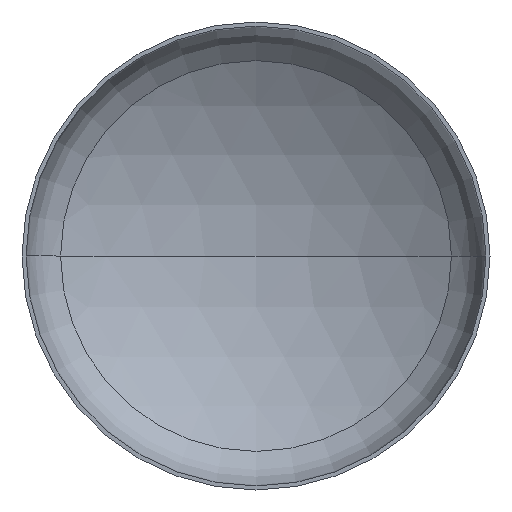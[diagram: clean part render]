
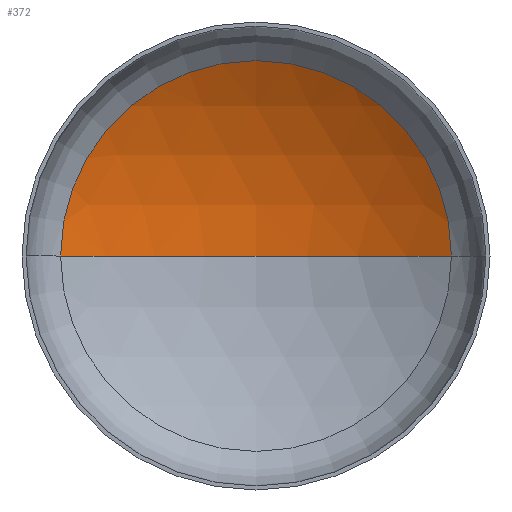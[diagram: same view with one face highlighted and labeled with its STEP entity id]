
A CAD part, front view. The second image highlights one B-rep face of the part: STEP entity #372.
In plain terms, the highlighted spherical face has radius 3600 mm.
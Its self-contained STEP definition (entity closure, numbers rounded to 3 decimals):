
#1 = AXIS2_PLACEMENT_3D ( 'NONE', #149, #79, #190 ) ;
#6 = CARTESIAN_POINT ( 'NONE',  ( 0., 1241.942, 0. ) ) ;
#15 = AXIS2_PLACEMENT_3D ( 'NONE', #386, #314, #243 ) ;
#20 = AXIS2_PLACEMENT_3D ( 'NONE', #343, #201, #204 ) ;
#26 = EDGE_LOOP ( 'NONE', ( #141, #128, #135 ) ) ;
#35 = AXIS2_PLACEMENT_3D ( 'NONE', #167, #168, #369 ) ;
#79 = DIRECTION ( 'NONE',  ( 0., 0., -1. ) ) ;
#127 = VERTEX_POINT ( 'NONE', #368 ) ;
#128 = ORIENTED_EDGE ( 'NONE', *, *, #348, .T. ) ;
#129 = VERTEX_POINT ( 'NONE', #6 ) ;
#135 = ORIENTED_EDGE ( 'NONE', *, *, #344, .T. ) ;
#141 = ORIENTED_EDGE ( 'NONE', *, *, #351, .F. ) ;
#144 = FACE_OUTER_BOUND ( 'NONE', #26, .T. ) ;
#149 = CARTESIAN_POINT ( 'NONE',  ( 0., -2358.058, 0. ) ) ;
#167 = CARTESIAN_POINT ( 'NONE',  ( 0., 712.857, 0. ) ) ;
#168 = DIRECTION ( 'NONE',  ( 0., -1., 0. ) ) ;
#190 = DIRECTION ( 'NONE',  ( -1., 0., 0. ) ) ;
#201 = DIRECTION ( 'NONE',  ( 0., 0., -1. ) ) ;
#204 = DIRECTION ( 'NONE',  ( -1., 0., 0. ) ) ;
#221 = CIRCLE ( 'NONE', #35, 1878.692 ) ;
#243 = DIRECTION ( 'NONE',  ( 1., 0., 0. ) ) ;
#278 = VERTEX_POINT ( 'NONE', #289 ) ;
#289 = CARTESIAN_POINT ( 'NONE',  ( 1878.692, 712.857, 0. ) ) ;
#314 = DIRECTION ( 'NONE',  ( 0., 0., 1. ) ) ;
#335 = CIRCLE ( 'NONE', #15, 3600. ) ;
#343 = CARTESIAN_POINT ( 'NONE',  ( 0., -2358.058, 0. ) ) ;
#344 = EDGE_CURVE ( 'NONE', #278, #127, #221, .T. ) ;
#348 = EDGE_CURVE ( 'NONE', #129, #278, #402, .T. ) ;
#351 = EDGE_CURVE ( 'NONE', #129, #127, #335, .T. ) ;
#368 = CARTESIAN_POINT ( 'NONE',  ( -1878.692, 712.857, 0. ) ) ;
#369 = DIRECTION ( 'NONE',  ( 1., 0., 0. ) ) ;
#372 = ADVANCED_FACE ( 'NONE', ( #144 ), #390, .F. ) ;
#386 = CARTESIAN_POINT ( 'NONE',  ( 0., -2358.058, 0. ) ) ;
#390 = SPHERICAL_SURFACE ( 'NONE', #1, 3600. ) ;
#402 = CIRCLE ( 'NONE', #20, 3600. ) ;
